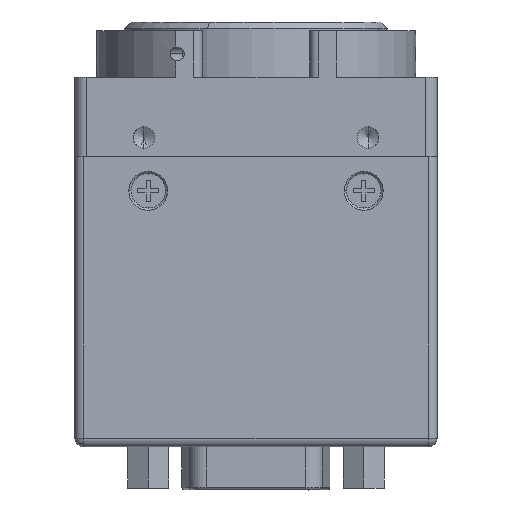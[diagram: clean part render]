
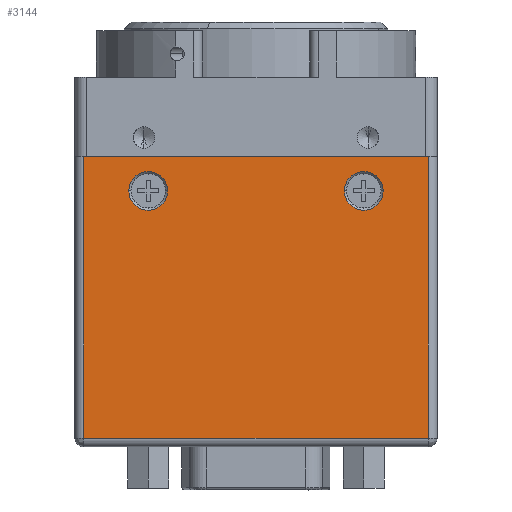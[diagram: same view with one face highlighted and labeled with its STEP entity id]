
A CAD part, front view. The second image highlights one B-rep face of the part: STEP entity #3144.
In plain terms, the highlighted planar face has unit normal (0, -1, 0) as drawn and (0, 0, -1) by its records, which use the part's own axes.
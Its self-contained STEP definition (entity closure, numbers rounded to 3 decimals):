
#1292 = EDGE_CURVE ( 'NONE', #3956, #3955, #12528, .T. ) ;
#1293 = EDGE_CURVE ( 'NONE', #3960, #3959, #12529, .T. ) ;
#3144 = ADVANCED_FACE ( 'NONE', ( #28867, #28866, #28873 ), #30541, .F. ) ;
#3955 = VERTEX_POINT ( 'NONE', #36420 ) ;
#3956 = VERTEX_POINT ( 'NONE', #36421 ) ;
#3959 = VERTEX_POINT ( 'NONE', #36424 ) ;
#3960 = VERTEX_POINT ( 'NONE', #36425 ) ;
#4222 = VERTEX_POINT ( 'NONE', #36687 ) ;
#4225 = VERTEX_POINT ( 'NONE', #36690 ) ;
#4260 = VERTEX_POINT ( 'NONE', #36725 ) ;
#4261 = VERTEX_POINT ( 'NONE', #36726 ) ;
#5378 = EDGE_CURVE ( 'NONE', #4260, #4222, #40065, .T. ) ;
#5387 = EDGE_CURVE ( 'NONE', #4222, #4225, #40084, .T. ) ;
#5390 = EDGE_CURVE ( 'NONE', #4225, #4261, #40076, .T. ) ;
#5425 = EDGE_CURVE ( 'NONE', #3955, #3956, #40149, .T. ) ;
#5428 = EDGE_CURVE ( 'NONE', #3959, #3960, #40154, .T. ) ;
#5431 = EDGE_CURVE ( 'NONE', #4261, #4260, #40157, .T. ) ;
#7032 = ORIENTED_EDGE ( 'NONE', *, *, #5387, .F. ) ;
#7033 = ORIENTED_EDGE ( 'NONE', *, *, #5378, .F. ) ;
#7034 = ORIENTED_EDGE ( 'NONE', *, *, #5431, .F. ) ;
#7035 = ORIENTED_EDGE ( 'NONE', *, *, #5390, .F. ) ;
#7036 = ORIENTED_EDGE ( 'NONE', *, *, #1292, .T. ) ;
#7037 = ORIENTED_EDGE ( 'NONE', *, *, #5425, .T. ) ;
#7038 = ORIENTED_EDGE ( 'NONE', *, *, #1293, .T. ) ;
#7039 = ORIENTED_EDGE ( 'NONE', *, *, #5428, .T. ) ;
#7431 = EDGE_LOOP ( 'NONE', ( #7032, #7033, #7034, #7035 ) ) ;
#7442 = EDGE_LOOP ( 'NONE', ( #7036, #7037 ) ) ;
#7447 = EDGE_LOOP ( 'NONE', ( #7038, #7039 ) ) ;
#12528 = CIRCLE ( 'NONE', #13475, 2.25 ) ;
#12529 = CIRCLE ( 'NONE', #13478, 2.25 ) ;
#13475 = AXIS2_PLACEMENT_3D ( 'NONE', #15069, #15075, #15076 ) ;
#13478 = AXIS2_PLACEMENT_3D ( 'NONE', #15077, #15078, #15079 ) ;
#14253 = AXIS2_PLACEMENT_3D ( 'NONE', #30526, #30542, #30543 ) ;
#15069 = CARTESIAN_POINT ( 'NONE',  ( 33.5, 4., -32. ) ) ;
#15075 = DIRECTION ( 'NONE',  ( 0., 0., 1. ) ) ;
#15076 = DIRECTION ( 'NONE',  ( -1., 0., 0. ) ) ;
#15077 = CARTESIAN_POINT ( 'NONE',  ( 8.5, 4., -32. ) ) ;
#15078 = DIRECTION ( 'NONE',  ( 0., 0., 1. ) ) ;
#15079 = DIRECTION ( 'NONE',  ( -1., 0., 0. ) ) ;
#28866 = FACE_BOUND ( 'NONE', #7442, .T. ) ;
#28867 = FACE_OUTER_BOUND ( 'NONE', #7431, .T. ) ;
#28873 = FACE_BOUND ( 'NONE', #7447, .T. ) ;
#30526 = CARTESIAN_POINT ( 'NONE',  ( 1., 33.7, -32. ) ) ;
#30541 = PLANE ( 'NONE',  #14253 ) ;
#30542 = DIRECTION ( 'NONE',  ( 0., 0., 1. ) ) ;
#30543 = DIRECTION ( 'NONE',  ( 1., 0., 0. ) ) ;
#36420 = CARTESIAN_POINT ( 'NONE',  ( 35.75, 4., -32. ) ) ;
#36421 = CARTESIAN_POINT ( 'NONE',  ( 31.25, 4., -32. ) ) ;
#36424 = CARTESIAN_POINT ( 'NONE',  ( 10.75, 4., -32. ) ) ;
#36425 = CARTESIAN_POINT ( 'NONE',  ( 6.25, 4., -32. ) ) ;
#36687 = CARTESIAN_POINT ( 'NONE',  ( 41., 32.7, -32. ) ) ;
#36690 = CARTESIAN_POINT ( 'NONE',  ( 1., 32.7, -32. ) ) ;
#36725 = CARTESIAN_POINT ( 'NONE',  ( 41., 0., -32. ) ) ;
#36726 = CARTESIAN_POINT ( 'NONE',  ( 1., 0., -32. ) ) ;
#37710 = AXIS2_PLACEMENT_3D ( 'NONE', #39261, #39266, #39267 ) ;
#37712 = AXIS2_PLACEMENT_3D ( 'NONE', #39258, #39273, #39274 ) ;
#39153 = CARTESIAN_POINT ( 'NONE',  ( 41., 33.7, -32. ) ) ;
#39154 = DIRECTION ( 'NONE',  ( 0., 1., 0. ) ) ;
#39173 = CARTESIAN_POINT ( 'NONE',  ( 1., 32.7, -32. ) ) ;
#39174 = DIRECTION ( 'NONE',  ( -1., 0., 0. ) ) ;
#39182 = CARTESIAN_POINT ( 'NONE',  ( 1., 33.7, -32. ) ) ;
#39183 = DIRECTION ( 'NONE',  ( 0., -1., 0. ) ) ;
#39258 = CARTESIAN_POINT ( 'NONE',  ( 8.5, 4., -32. ) ) ;
#39261 = CARTESIAN_POINT ( 'NONE',  ( 33.5, 4., -32. ) ) ;
#39266 = DIRECTION ( 'NONE',  ( 0., 0., 1. ) ) ;
#39267 = DIRECTION ( 'NONE',  ( -1., 0., 0. ) ) ;
#39273 = DIRECTION ( 'NONE',  ( 0., 0., 1. ) ) ;
#39274 = DIRECTION ( 'NONE',  ( -1., 0., 0. ) ) ;
#39279 = CARTESIAN_POINT ( 'NONE',  ( 41., 0., -32. ) ) ;
#39280 = DIRECTION ( 'NONE',  ( 1., 0., 0. ) ) ;
#40065 = LINE ( 'NONE', #39153, #40068 ) ;
#40068 = VECTOR ( 'NONE', #39154, 1000. ) ;
#40076 = LINE ( 'NONE', #39182, #40080 ) ;
#40080 = VECTOR ( 'NONE', #39183, 1000. ) ;
#40084 = LINE ( 'NONE', #39173, #40085 ) ;
#40085 = VECTOR ( 'NONE', #39174, 1000. ) ;
#40149 = CIRCLE ( 'NONE', #37710, 2.25 ) ;
#40154 = CIRCLE ( 'NONE', #37712, 2.25 ) ;
#40157 = LINE ( 'NONE', #39279, #40158 ) ;
#40158 = VECTOR ( 'NONE', #39280, 1000. ) ;
